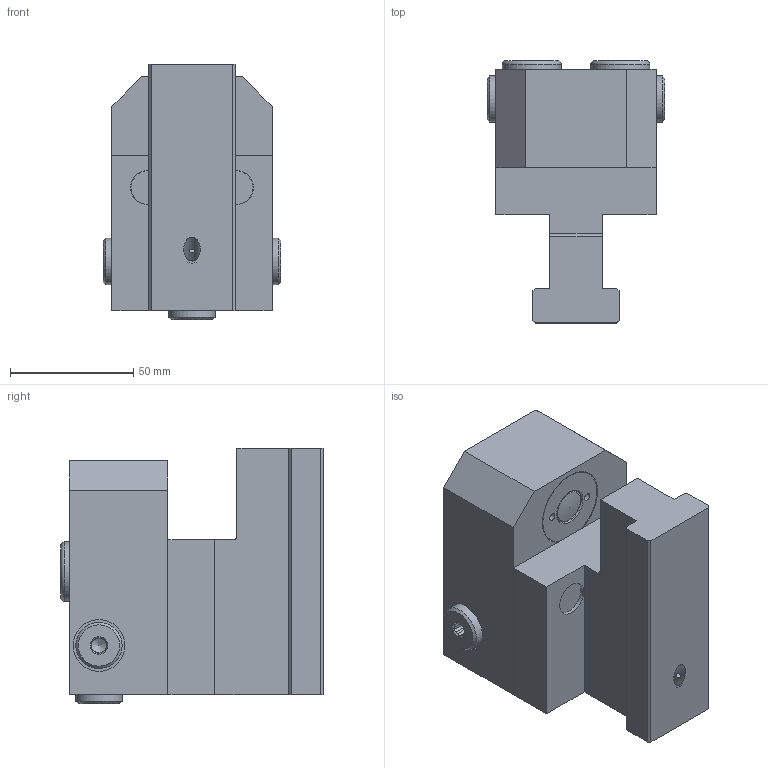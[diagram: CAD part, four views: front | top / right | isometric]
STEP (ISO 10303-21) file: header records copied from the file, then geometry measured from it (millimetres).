
FILE_DESCRIPTION(/* description */ (''),/* implementation_level */ '2;1');
FILE_NAME(/* name */ 'S:\EASCN Vault\Designs\Standard Part\T-SLOT\MTC CLAMPS\MTC15\MTC15-22-XX.stp',/* time_stamp */ '2020-05-19T10:06:17+08:00',/* author */ ('yue.yang'),/* organization */ (''),/* preprocessor_version */ 'ST-DEVELOPER v17',/* originating_system */ 'Autodesk Inventor 2019',/* authorisation */ '');
FILE_SCHEMA (('AUTOMOTIVE_DESIGN { 1 0 10303 214 3 1 1 }'));
Length unit declared in the file: millimetre
Products named in the file (1): MTC15-22-XX_Shrinkwrap_1
Bounding box: 72.2 x 106.53 x 103.6 mm (x, y, z)
Volume: 413297.8 mm3; surface area: 87938.6 mm2
Topology: 12 solids, 12 shells, 455 faces, 1225 edges, 838 vertices
Faces by surface type: plane 254, bspline 91, cylinder 62, cone 35, torus 13
Full cylindrical faces by diameter (mm): 3 x2, 4 x1, 6 x3, 6.8 x1, 8 x1, 11.2 x3, 11.445 x4, 11.6 x3, 12 x1, 13.157 x3, 13.835 x2, 13.95 x1, 14.1 x1, 16 x2, 16.4 x3, 16.8 x3, 17 x4, 18.8 x3, 19.5 x1, 21 x3, 23.5 x1, 23.97 x2, 24 x2, 24.02 x1, 24.5 x1, 26 x2, 30 x1, 32 x1, 33 x1
Entity records: 15472 total; most frequent: CARTESIAN_POINT 3899, ORIENTED_EDGE 2434, DIRECTION 2043, EDGE_CURVE 1217, VERTEX_POINT 838, AXIS2_PLACEMENT_3D 702, LINE 639, VECTOR 639
